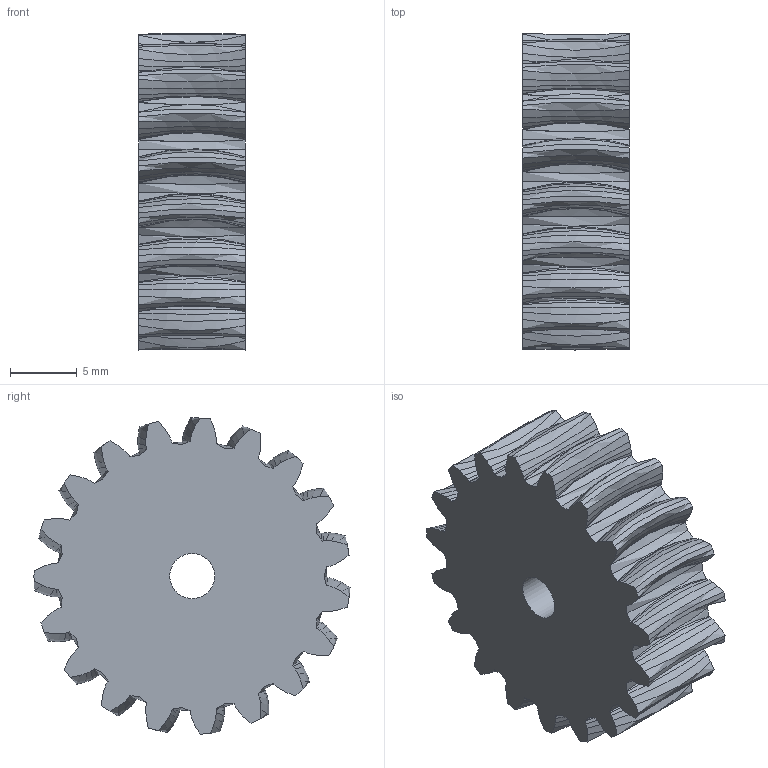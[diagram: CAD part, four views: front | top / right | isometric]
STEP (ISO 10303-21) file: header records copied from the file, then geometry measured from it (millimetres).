
FILE_DESCRIPTION(('Open CASCADE Model'),'2;1');
FILE_NAME('Open CASCADE Shape Model','2026-09-09T00:35:28',('Author'),( 'Open CASCADE'),'Open CASCADE STEP processor 7.7','Open CASCADE 7.7' ,'Unknown');
FILE_SCHEMA(('AUTOMOTIVE_DESIGN { 1 0 10303 214 1 1 1 1 }'));
Length unit declared in the file: millimetre
Products named in the file (1): Open CASCADE STEP translator 7.7 1
Bounding box: 7.97 x 23.59 x 23.61 mm (x, y, z)
Volume: 2840.2 mm3; surface area: 1700.8 mm2
Topology: 1 solids, 1 shells, 269 faces, 801 edges, 534 vertices
Faces by surface type: bspline 266, plane 2, cylinder 1
Full cylindrical faces by diameter (mm): 3.36 x1
Entity records: 18732 total; most frequent: CARTESIAN_POINT 6133, ORIENTED_EDGE 1602, PCURVE 1602, DEFINITIONAL_REPRESENTATION 1602, B_SPLINE_CURVE_WITH_KNOTS 1330, DIRECTION 1083, LINE 1069, VECTOR 1069
